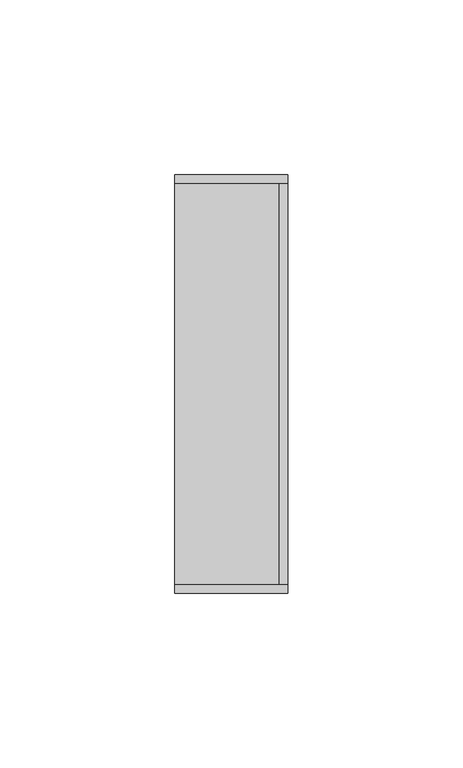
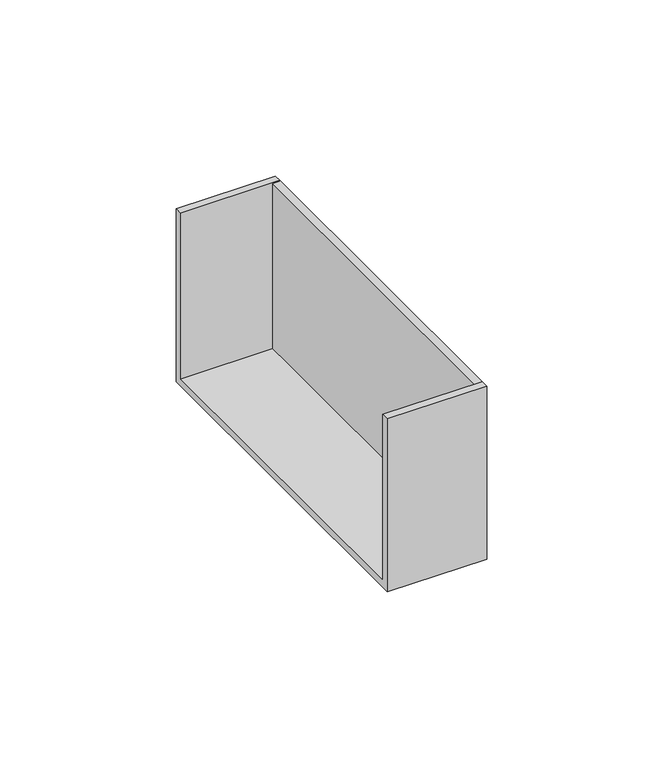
"""IFC4 building model written with IfcOpenShell, lengths in millimetres: cable carrier fitting geometry, КНС_ЗаглушкаТорцеваяLAN_ILC_DKC : Заглушка торцевая LAN_DKC."""

import ifcopenshell
import ifcopenshell.guid

model = None  # the IFC model being written
_history = None  # IfcOwnerHistory: only IFC2X3 demands one
_inside = {}  # id of a spatial element -> (the spatial element, [elements in it])
_under = {}  # id of a project, library or spatial element -> (it, [spatial elements below it])
_declared = {}  # id of a project -> (the project, [libraries it declares])
_typed = {}  # id of a type object -> (the type object, [elements of that type])
_made_of = {}  # id of a material, layer set ... -> (it, [elements and type objects made of it])


def new_model(schema):
    """Start an empty IFC model of exactly this schema.

    Asked for "IFC4X3", IfcOpenShell would pick the latest addendum, in which some entities
    have other attributes; the version numbers below select the first issue.
    IFC2X3 requires an IfcOwnerHistory on every rooted entity: one is made here for all.
    """
    global model, _history
    if schema == "IFC4X3":
        model = ifcopenshell.file(schema_version=(4, 3, 0, 0))
    else:
        model = ifcopenshell.file(schema=schema)
    _inside.clear()
    _under.clear()
    _declared.clear()
    _typed.clear()
    _made_of.clear()
    _history = None
    if model.schema == "IFC2X3":
        org = make("IfcOrganization", Name="unknown")
        user = make(
            "IfcPersonAndOrganization",
            ThePerson=make("IfcPerson", FamilyName="unknown"),
            TheOrganization=org,
        )
        app = make(
            "IfcApplication",
            ApplicationDeveloper=org,
            Version="unknown",
            ApplicationFullName="unknown",
            ApplicationIdentifier="unknown",
        )
        _history = make(
            "IfcOwnerHistory",
            OwningUser=user,
            OwningApplication=app,
            ChangeAction="ADDED",
            CreationDate=0,
        )
    return model


def make(cls, **values):
    """One entity of the class cls with the attributes given. An attribute that is None is left unset."""
    return model.create_entity(
        cls, **{name: value for name, value in values.items() if value is not None}
    )


def rooted(cls, **values):
    """An entity with a GlobalId (a new one), such as an element, a storey or a relation."""
    return make(cls, GlobalId=ifcopenshell.guid.new(), OwnerHistory=_history, **values)


def si_unit(unit_type, name, prefix=None):
    """IfcSIUnit, for example si_unit("LENGTHUNIT", "METRE", prefix="MILLI")."""
    return make("IfcSIUnit", UnitType=unit_type, Prefix=prefix, Name=name)


def assignment(units):
    """IfcUnitAssignment: the units of a project."""
    return None if units is None else make("IfcUnitAssignment", Units=units)


def point(xyz):
    """IfcCartesianPoint."""
    return None if xyz is None else make("IfcCartesianPoint", Coordinates=xyz)


def direction(xyz):
    """IfcDirection."""
    return None if xyz is None else make("IfcDirection", DirectionRatios=xyz)


def frame(location, z_axis=None, x_axis=None):
    """IfcAxis2Placement3D, a coordinate frame: its origin and axes. An axis left out is left unset."""
    return make(
        "IfcAxis2Placement3D",
        Location=point(location),
        Axis=direction(z_axis),
        RefDirection=direction(x_axis),
    )


def origin():
    """The frame at (0, 0, 0) with its axes left unset."""
    return frame((0.0, 0.0, 0.0))


def place(relative_to, where):
    """IfcLocalPlacement: puts the frame where relative to a parent placement (None: the world)."""
    return make(
        "IfcLocalPlacement", PlacementRelTo=relative_to, RelativePlacement=where
    )


def context(
    kind, dimensions, precision=None, world=None, true_north=None, identifier=None
):
    """IfcGeometricRepresentationContext, for example the 3D "Model" context."""
    return make(
        "IfcGeometricRepresentationContext",
        ContextIdentifier=identifier,
        ContextType=kind,
        CoordinateSpaceDimension=dimensions,
        Precision=precision,
        WorldCoordinateSystem=world,
        TrueNorth=true_north,
    )


def project(units=None, contexts=None):
    """IfcProject with its units and contexts."""
    return rooted(
        "IfcProject",
        Name="project",
        RepresentationContexts=contexts,
        UnitsInContext=assignment(units),
    )


def spatial(cls, under=None, at=None, **own):
    """A site, building, storey or space (cls), placed at a placement, below another one or the project."""
    s = rooted(cls, ObjectPlacement=at, **own)
    if under is not None:
        _under.setdefault(under.id(), (under, []))[1].append(s)
    return s


def polyline(points):
    """IfcPolyline through the points."""
    return make("IfcPolyline", Points=[point(p) for p in points])


def outline(outer, holes=None, kind="AREA"):
    """IfcArbitraryClosedProfileDef: a profile drawn as a closed curve; with holes, ...WithVoids."""
    if holes is None:
        return make("IfcArbitraryClosedProfileDef", ProfileType=kind, OuterCurve=outer)
    return make(
        "IfcArbitraryProfileDefWithVoids",
        ProfileType=kind,
        OuterCurve=outer,
        InnerCurves=holes,
    )


def extrude(swept, where, along, depth):
    """IfcExtrudedAreaSolid: the profile swept, set in the frame where, extruded along a direction by depth."""
    return make(
        "IfcExtrudedAreaSolid",
        SweptArea=swept,
        Position=where,
        ExtrudedDirection=direction(along),
        Depth=depth,
    )


def shape(context_of_items, identifier, shape_type, items):
    """IfcShapeRepresentation: the items that make up one representation, for example the "Body"."""
    return make(
        "IfcShapeRepresentation",
        ContextOfItems=context_of_items,
        RepresentationIdentifier=identifier,
        RepresentationType=shape_type,
        Items=items,
    )


def source(mapping_origin, context_of_items, identifier, shape_type, items):
    """IfcRepresentationMap: a shape defined once, which mapped items show again and again."""
    return make(
        "IfcRepresentationMap",
        MappingOrigin=mapping_origin,
        MappedRepresentation=shape(context_of_items, identifier, shape_type, items),
    )


def transform(
    local_origin,
    x_axis=None,
    y_axis=None,
    z_axis=None,
    scale=None,
    scale2=None,
    scale3=None,
    uniform=True,
):
    """IfcCartesianTransformationOperator3D, or its non-uniform kind. x_axis, y_axis, z_axis: its Axis1, 2, 3."""
    if uniform:
        return make(
            "IfcCartesianTransformationOperator3D",
            Axis1=direction(x_axis),
            Axis2=direction(y_axis),
            LocalOrigin=point(local_origin),
            Scale=scale,
            Axis3=direction(z_axis),
        )
    return make(
        "IfcCartesianTransformationOperator3DnonUniform",
        Axis1=direction(x_axis),
        Axis2=direction(y_axis),
        LocalOrigin=point(local_origin),
        Scale=scale,
        Axis3=direction(z_axis),
        Scale2=scale2,
        Scale3=scale3,
    )


def mapped(mapping_source, mapping_target):
    """IfcMappedItem: shows the shape of a source again, moved by a transform."""
    return make(
        "IfcMappedItem", MappingSource=mapping_source, MappingTarget=mapping_target
    )


def made_of(thing, what):
    """Note that an element or type object is made of a material, layer set ...; save() writes the relation."""
    if what is not None:
        _made_of.setdefault(what.id(), (what, []))[1].append(thing)
    return thing


def element(
    cls,
    number,
    at=None,
    inside=None,
    cuts=None,
    type_object=None,
    material=None,
    context=None,
    identifier="Body",
    shape_type=None,
    held_by="IfcProductDefinitionShape",
    body=None,
    shapes=None,
    **own,
):
    """One element of the class cls, such as IfcWall. Its Tag is "e" and its number.

    at: its placement. inside: the storey or other place that contains it. cuts: it is an
    opening in that element (IfcRelVoidsElement). A single representation is given by context,
    identifier, shape_type and body (its items); several are given by shapes. held_by: the class
    of the entity that holds the representations. save() writes the other relations.
    """
    e = rooted(cls, Tag="e%d" % number, ObjectPlacement=at, **own)
    if body is not None:
        shapes = [shape(context, identifier, shape_type, body)]
    if shapes is not None:
        e.Representation = make(held_by, Representations=shapes)
    if inside is not None:
        _inside.setdefault(inside.id(), (inside, []))[1].append(e)
    if cuts is not None:
        rooted(
            "IfcRelVoidsElement", RelatingBuildingElement=cuts, RelatedOpeningElement=e
        )
    if type_object is not None:
        _typed.setdefault(type_object.id(), (type_object, []))[1].append(e)
    return made_of(e, material)


def aggregate(whole, parts):
    """IfcRelAggregates: a whole, such as a stair, and the parts it consists of."""
    return rooted("IfcRelAggregates", RelatingObject=whole, RelatedObjects=parts)


def save(model, path):
    """Write the relations noted so far, then the file.

    IfcRelAggregates (storeys below a building ...), IfcRelContainedInSpatialStructure (elements
    in a storey), IfcRelDefinesByType, IfcRelAssociatesMaterial and IfcRelDeclares: one each for
    every whole, place, type object, material and project.
    """
    for whole, parts in _under.values():
        aggregate(whole, parts)
    for where, things in _inside.values():
        rooted(
            "IfcRelContainedInSpatialStructure",
            RelatedElements=things,
            RelatingStructure=where,
        )
    for kind, things in _typed.values():
        rooted("IfcRelDefinesByType", RelatedObjects=things, RelatingType=kind)
    for what, things in _made_of.values():
        rooted("IfcRelAssociatesMaterial", RelatedObjects=things, RelatingMaterial=what)
    for by, libraries in _declared.values():
        rooted("IfcRelDeclares", RelatingContext=by, RelatedDefinitions=libraries)
    model.write(path)


def cable_carrier_fitting_e598b078(model_context):
    return source(origin(), model_context, "Body", "SweptSolid", [
        extrude(outline(polyline([(60.0, -30.0), (-60.0, -30.0), (-60.0, 30.0), (-57.5, 30.0), (-57.5, -27.5), (57.5, -27.5), (57.5, 30.0), (60.0, 30.0), (60.0, -30.0)])), frame((-32.5, 0.0, 0.0), z_axis=(1.0, 0.0, 0.0), x_axis=(0.0, 1.0, 0.0)), (0.0, 0.0, 1.0), 32.5),
        extrude(outline(polyline([(0.0, 57.5), (0.0, -57.5), (-2.5, -57.5), (-2.5, 57.5), (0.0, 57.5)])), frame((0.0, 0.0, -30.0), z_axis=(0.0, 0.0, 1.0), x_axis=(1.0, 0.0, 0.0)), (0.0, 0.0, 1.0), 60.0),
    ])


if __name__ == "__main__":
    model = new_model("IFC4")
    model_context = context("Model", 3, world=origin())
    ifc_project = project(units=[si_unit("LENGTHUNIT", "METRE", prefix="MILLI")], contexts=[model_context])
    site = spatial("IfcSite", under=ifc_project)
    building = spatial("IfcBuilding", under=site)
    placement = place(None, origin())
    cable_carrier_fitting_shape = cable_carrier_fitting_e598b078(model_context)
    element("IfcCableCarrierFitting", 1, ObjectType="КНС_ЗаглушкаТорцеваяLAN_ILC_DKC : Заглушка торцевая LAN_DKC", at=placement, inside=building, context=model_context, shape_type="MappedRepresentation", body=[
        mapped(cable_carrier_fitting_shape, transform((0.0, 0.0, 0.0), x_axis=(1.0, 0.0, 0.0), y_axis=(0.0, 1.0, 0.0), z_axis=(0.0, 0.0, 1.0))),
    ])
    save(model, "model.ifc")
